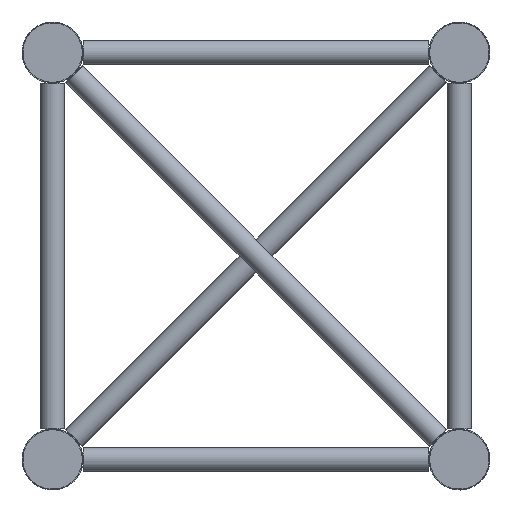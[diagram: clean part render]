
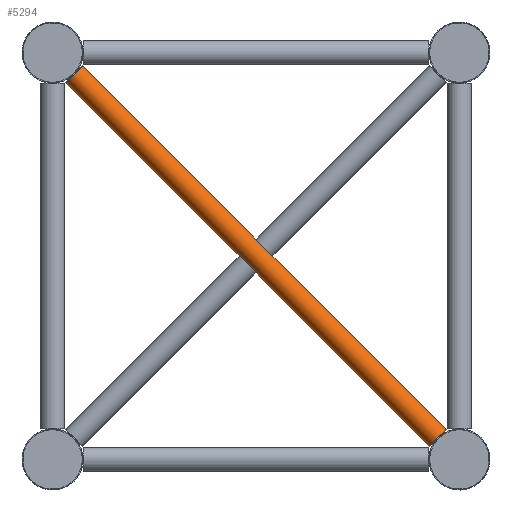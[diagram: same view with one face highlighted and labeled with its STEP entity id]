
A CAD part, left-side view. The second image highlights one B-rep face of the part: STEP entity #5294.
In plain terms, the highlighted cylindrical face has radius 10 mm (diameter 20 mm), a full revolution.
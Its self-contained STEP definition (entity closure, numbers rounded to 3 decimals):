
#1004=FACE_BOUND('',#1920,.T.);
#1080=CYLINDRICAL_SURFACE('',#5861,10.);
#1393=FACE_OUTER_BOUND('',#1919,.T.);
#1919=EDGE_LOOP('',(#4423));
#1920=EDGE_LOOP('',(#4424));
#1994=CIRCLE('',#5860,10.);
#1995=CIRCLE('',#5862,10.);
#2450=VERTEX_POINT('',#10039);
#2451=VERTEX_POINT('',#10042);
#3098=EDGE_CURVE('',#2450,#2450,#1994,.T.);
#3099=EDGE_CURVE('',#2451,#2451,#1995,.T.);
#4423=ORIENTED_EDGE('',*,*,#3098,.T.);
#4424=ORIENTED_EDGE('',*,*,#3099,.T.);
#5294=ADVANCED_FACE('',(#1393,#1004),#1080,.T.);
#5860=AXIS2_PLACEMENT_3D('',#10040,#7173,#7174);
#5861=AXIS2_PLACEMENT_3D('',#10041,#7175,#7176);
#5862=AXIS2_PLACEMENT_3D('',#10043,#7177,#7178);
#7173=DIRECTION('center_axis',(0.,0.707,
0.707));
#7174=DIRECTION('ref_axis',(0.,0.707,-0.707));
#7175=DIRECTION('center_axis',(0.,0.707,
0.707));
#7176=DIRECTION('ref_axis',(0.,0.707,-0.707));
#7177=DIRECTION('center_axis',(0.,-0.707,
-0.707));
#7178=DIRECTION('ref_axis',(0.,0.707,-0.707));
#10039=CARTESIAN_POINT('',(60.,10.967,-313.891));
#10040=CARTESIAN_POINT('Origin',(60.,18.038,-320.962));
#10041=CARTESIAN_POINT('Origin',(60.,169.5,-169.5));
#10042=CARTESIAN_POINT('',(60.,313.891,-10.967));
#10043=CARTESIAN_POINT('Origin',(60.,320.962,-18.038));
